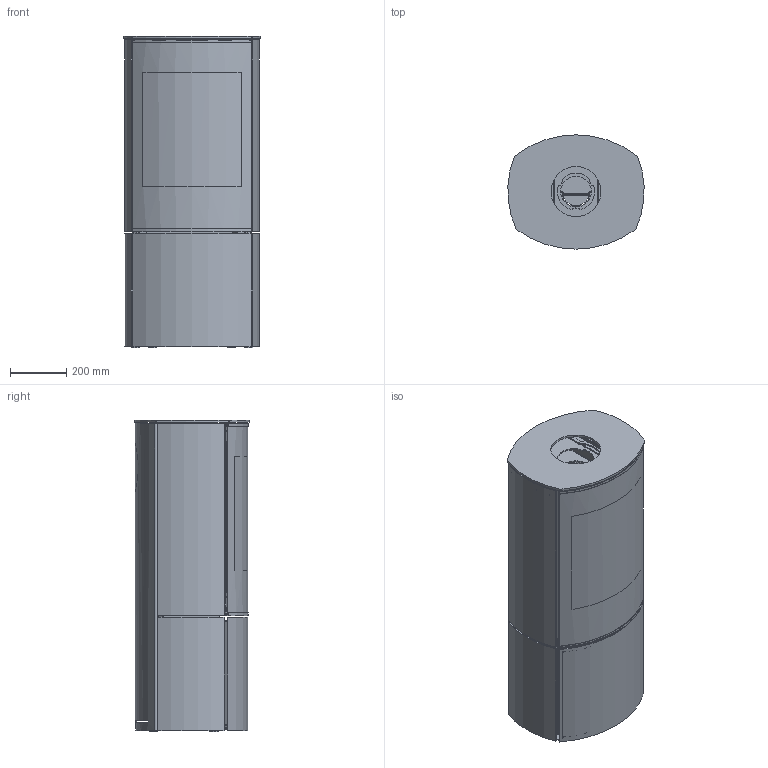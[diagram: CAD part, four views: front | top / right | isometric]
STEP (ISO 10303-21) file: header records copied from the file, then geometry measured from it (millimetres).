
FILE_DESCRIPTION(/* description */ (''),/* implementation_level */ '2;1');
FILE_NAME(/* name */ '14 Caro 110 Gas_14-0403.stp',/* time_stamp */ '2023-11-16T13:20:45+01:00',/* author */ ('ksj'),/* organization */ (''),/* preprocessor_version */ 'ST-DEVELOPER v19.2',/* originating_system */ 'Autodesk Inventor 2023',/* authorisation */ '');
FILE_SCHEMA (('AUTOMOTIVE_DESIGN { 1 0 10303 214 3 1 1 }'));
Products named in the file (1): 14 Caro 110 Gas_14-0403
Bounding box: 484.89 x 407 x 1111 mm (x, y, z)
Volume: 17570918.5 mm3; surface area: 8200140.4 mm2
Topology: 56 solids, 56 shells, 3601 faces, 9844 edges, 6337 vertices
Faces by surface type: plane 2135, cylinder 1303, bspline 113, cone 40, torus 8, sphere 2
Full cylindrical faces by diameter (mm): 10 x4, 110 x2, 178 x1
Entity records: 123902 total; most frequent: CARTESIAN_POINT 27990, ORIENTED_EDGE 19684, DIRECTION 18736, EDGE_CURVE 9842, LINE 6554, VECTOR 6554, VERTEX_POINT 6333, AXIS2_PLACEMENT_3D 6091
